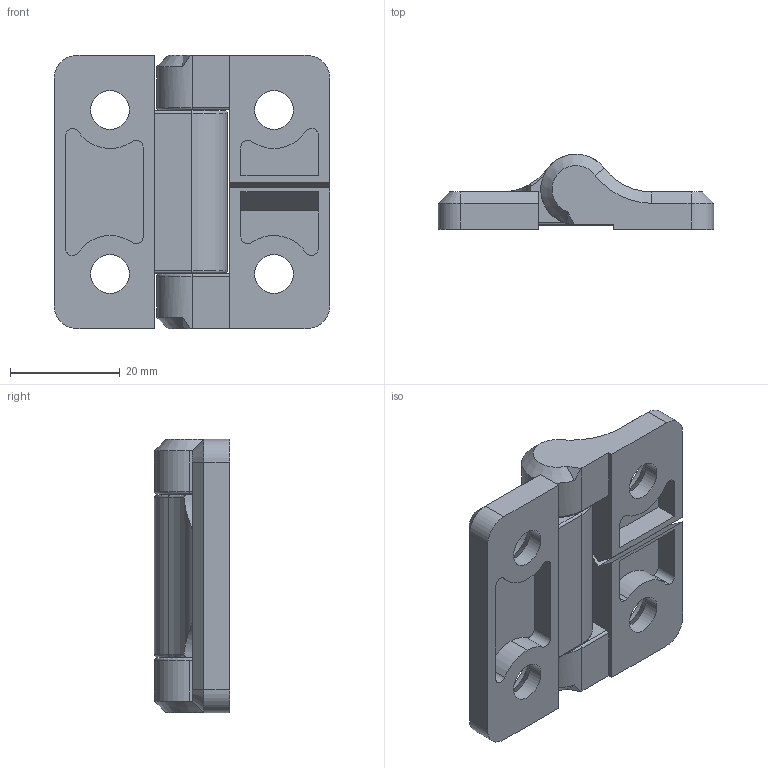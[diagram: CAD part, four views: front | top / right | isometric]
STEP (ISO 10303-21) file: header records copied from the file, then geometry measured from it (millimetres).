
FILE_DESCRIPTION (( 'STEP AP203' ), '1' );
FILE_NAME ('XG11-031-2.STEP', '2025-06-24T00:13:57', ( '微软用户' ), ( '微软中国' ), 'SwSTEP 2.0', 'SolidWorks 2024', '' );
FILE_SCHEMA (( 'CONFIG_CONTROL_DESIGN' ));
Length unit declared in the file: millimetre
Products named in the file (1): XG11-031-2
Bounding box: 50.22 x 13.68 x 49.81 mm (x, y, z)
Volume: 15189.7 mm3; surface area: 9561.1 mm2
Topology: 4 solids, 4 shells, 130 faces, 345 edges, 222 vertices
Faces by surface type: cylinder 55, plane 47, cone 16, torus 10, bspline 2
Entity records: 4447 total; most frequent: CARTESIAN_POINT 1017, DIRECTION 743, ORIENTED_EDGE 690, EDGE_CURVE 345, AXIS2_PLACEMENT_3D 283, VERTEX_POINT 222, LINE 177, VECTOR 177
